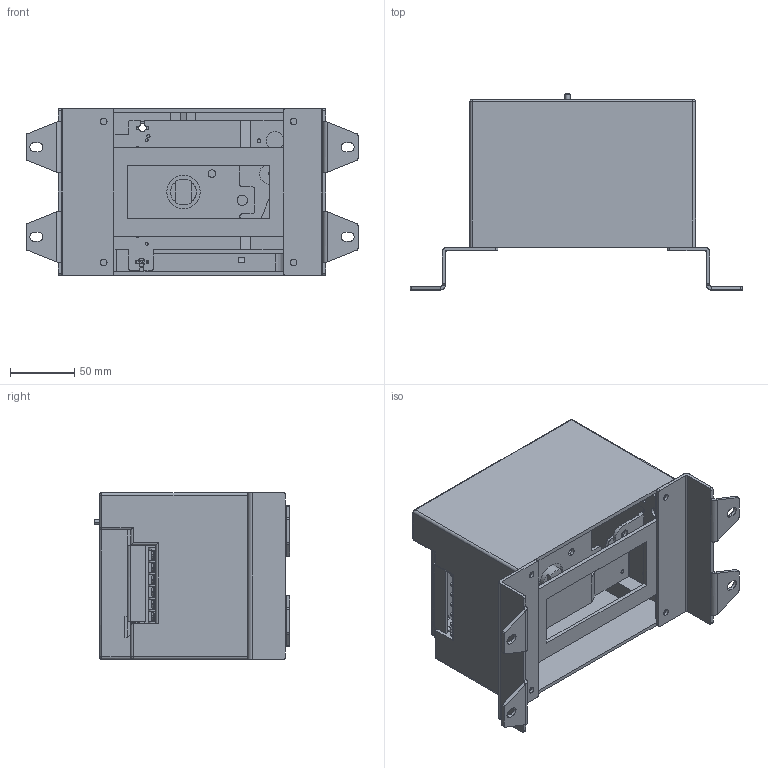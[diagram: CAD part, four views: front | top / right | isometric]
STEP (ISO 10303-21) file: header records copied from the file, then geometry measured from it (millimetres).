
FILE_DESCRIPTION (( 'STEP AP203' ), '1' );
FILE_NAME ('TGM1N-800 萇紱俋倛(1).STEP', '2026-06-11T02:36:49', ( 'Windows 蚚誧' ), ( 'Microsoft' ), 'SwSTEP 2.0', 'SolidWorks 2022', '' );
FILE_SCHEMA (( 'CONFIG_CONTROL_DESIGN' ));
Length unit declared in the file: millimetre
Products named in the file (3): 諉盄湮傷赽; TGM1N-800 萇紱俋倛(1)
Assembly tree (2 placements, depth 2):
  TGM1N-800 萇紱俋倛(1)
    TGM1N-800 萇紱俋倛(1)
    諉盄湮傷赽
Bounding box: 259 x 152.8 x 130 mm (x, y, z)
Volume: 498238.9 mm3; surface area: 351416.2 mm2
Topology: 11 solids, 11 shells, 1399 faces, 3767 edges, 2476 vertices
Faces by surface type: plane 783, cylinder 308, bspline 271, torus 24, cone 12, sphere 1
Entity records: 60619 total; most frequent: CARTESIAN_POINT 26555, ORIENTED_EDGE 7532, DIRECTION 6026, EDGE_CURVE 3766, VERTEX_POINT 2476, VECTOR 2442, LINE 2442, AXIS2_PLACEMENT_3D 1792
